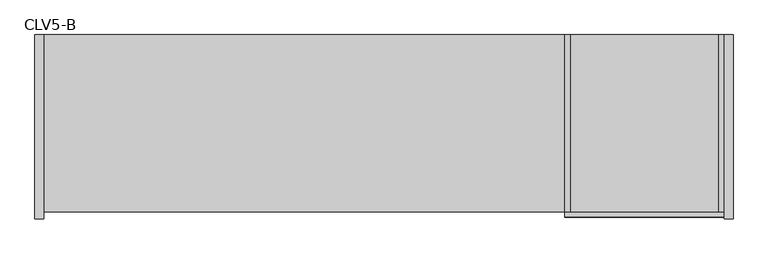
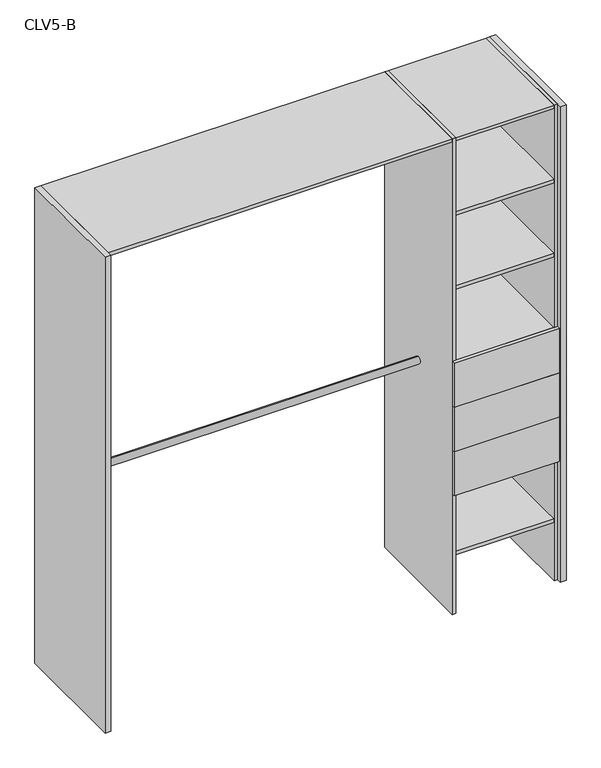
"""IFC4 building model written with IfcOpenShell, lengths in millimetres: furniture geometry, Closet 1estantes-1tubos_2 laterales : CLV5-B."""

from ifc_helpers import new_model, si_unit, point, frame, frame_2d, origin, origin_with_axes, place, context, project, spatial, polyline, circle_curve, trimmed, segment, composite_curve, outline, extrude, source, transform, mapped, element, save


def clv5_b_48a4a83d(model_context):
    return source(origin(), model_context, "Body", "SweptSolid", [
        extrude(outline(polyline([(-1695.1276798, 80.0), (-1720.1276798, 80.0), (-1720.1276798, 600.0), (-1695.1276798, 600.0), (-1695.1276798, 80.0)])), origin_with_axes(), (0.0, 0.0, 1.0), 2150.0),
        extrude(outline(polyline([(250.0, 80.0), (225.0, 80.0), (225.0, 600.0), (250.0, 600.0), (250.0, 80.0)])), origin_with_axes(), (0.0, 0.0, 1.0), 2150.0),
        extrude(outline(polyline([(225.0, 100.0), (210.0, 100.0), (210.0, 600.0), (225.0, 600.0), (225.0, 100.0)])), origin_with_axes(), (0.0, 0.0, 1.0), 2150.0),
        extrude(outline(polyline([(-210.0, 100.0), (-225.0, 100.0), (-225.0, 600.0), (-210.0, 600.0), (-210.0, 100.0)])), origin_with_axes(), (0.0, 0.0, 1.0), 2150.0),
        extrude(outline(polyline([(225.0, 100.0), (225.0, 85.0), (-225.0, 85.0), (-225.0, 100.0), (225.0, 100.0)])), frame((0.0, 0.0, 945.0), z_axis=(0.0, 0.0, 1.0), x_axis=(1.0, 0.0, 0.0)), (0.0, 0.0, 1.0), 200.0),
        extrude(outline(polyline([(225.0, 100.0), (225.0, 85.0), (-225.0, 85.0), (-225.0, 100.0), (225.0, 100.0)])), frame((0.0, 0.0, 745.0), z_axis=(0.0, 0.0, 1.0), x_axis=(1.0, 0.0, 0.0)), (0.0, 0.0, 1.0), 200.0),
        extrude(outline(polyline([(225.0, 100.0), (225.0, 85.0), (-225.0, 85.0), (-225.0, 100.0), (225.0, 100.0)])), frame((0.0, 0.0, 545.0), z_axis=(0.0, 0.0, 1.0), x_axis=(1.0, 0.0, 0.0)), (0.0, 0.0, 1.0), 200.0),
        extrude(outline(polyline([(210.0, 100.0), (-210.0, 100.0), (-210.0, 600.0), (210.0, 600.0), (210.0, 100.0)])), frame((0.0, 0.0, 1130.0), z_axis=(0.0, 0.0, 1.0), x_axis=(1.0, 0.0, 0.0)), (0.0, 0.0, 1.0), 15.0),
        extrude(outline(composite_curve([segment(trimmed(circle_curve(frame_2d((350.0, 1000.0)), 15.0), [point((350.0, 1015.0))], [point((350.0, 985.0))], False, "CARTESIAN"), True, "CONTINUOUS"), segment(trimmed(circle_curve(frame_2d((350.0, 1000.0)), 15.0), [point((350.0, 985.0))], [point((350.0, 1015.0))], False, "CARTESIAN"), True, "CONTINUOUS")], self_intersect=False)), frame((-1695.1276798, 0.0, 0.0), z_axis=(1.0, 0.0, 0.0), x_axis=(0.0, 1.0, 0.0)), (0.0, 0.0, 1.0), 1470.1276798),
        extrude(outline(composite_curve([segment(trimmed(circle_curve(frame_2d((350.0, 2000.0)), 15.0), [point((350.0, 2015.0))], [point((350.0, 1985.0))], False, "CARTESIAN"), True, "CONTINUOUS"), segment(trimmed(circle_curve(frame_2d((350.0, 2000.0)), 15.0), [point((350.0, 1985.0))], [point((350.0, 2015.0))], False, "CARTESIAN"), True, "CONTINUOUS")], self_intersect=False)), frame((-1695.1276798, 0.0, 0.0), z_axis=(1.0, 0.0, 0.0), x_axis=(0.0, 1.0, 0.0)), (0.0, 0.0, 1.0), 1470.1276798),
        extrude(outline(polyline([(210.0, 100.0), (-210.0, 100.0), (-210.0, 600.0), (210.0, 600.0), (210.0, 100.0)])), frame((0.0, 0.0, 265.0), z_axis=(0.0, 0.0, 1.0), x_axis=(1.0, 0.0, 0.0)), (0.0, 0.0, 1.0), 15.0),
        extrude(outline(polyline([(210.0, 100.0), (-210.0, 100.0), (-210.0, 600.0), (210.0, 600.0), (210.0, 100.0)])), frame((0.0, 0.0, 545.0), z_axis=(0.0, 0.0, 1.0), x_axis=(1.0, 0.0, 0.0)), (0.0, 0.0, 1.0), 15.0),
        extrude(outline(polyline([(210.0, 100.0), (-210.0, 100.0), (-210.0, 600.0), (210.0, 600.0), (210.0, 100.0)])), frame((0.0, 0.0, 1465.0), z_axis=(0.0, 0.0, 1.0), x_axis=(1.0, 0.0, 0.0)), (0.0, 0.0, 1.0), 15.0),
        extrude(outline(polyline([(210.0, 100.0), (-210.0, 100.0), (-210.0, 600.0), (210.0, 600.0), (210.0, 100.0)])), frame((0.0, 0.0, 1800.0), z_axis=(0.0, 0.0, 1.0), x_axis=(1.0, 0.0, 0.0)), (0.0, 0.0, 1.0), 15.0),
        extrude(outline(polyline([(-210.0, 100.0), (-1695.1276798, 100.0), (-1695.1276798, 600.0), (-210.0, 600.0), (-210.0, 100.0)])), frame((0.0, 0.0, 2135.0), z_axis=(0.0, 0.0, 1.0), x_axis=(1.0, 0.0, 0.0)), (0.0, 0.0, 1.0), 15.0),
        extrude(outline(polyline([(210.0, 100.0), (-210.0, 100.0), (-210.0, 600.0), (210.0, 600.0), (210.0, 100.0)])), frame((0.0, 0.0, 2135.0), z_axis=(0.0, 0.0, 1.0), x_axis=(1.0, 0.0, 0.0)), (0.0, 0.0, 1.0), 15.0),
    ])


if __name__ == "__main__":
    model = new_model("IFC4")
    model_context = context("Model", 3, world=origin())
    ifc_project = project(units=[si_unit("LENGTHUNIT", "METRE", prefix="MILLI")], contexts=[model_context])
    site = spatial("IfcSite", under=ifc_project)
    building = spatial("IfcBuilding", under=site)
    placement = place(None, origin())
    clv5_b_shape = clv5_b_48a4a83d(model_context)
    element("IfcFurniture", 1, ObjectType="Closet 1estantes-1tubos_2 laterales : CLV5-B", at=placement, inside=building, context=model_context, shape_type="MappedRepresentation", body=[
        mapped(clv5_b_shape, transform((0.0, 0.0, 0.0), x_axis=(1.0, 0.0, 0.0), y_axis=(0.0, 1.0, 0.0), z_axis=(0.0, 0.0, 1.0))),
    ])
    save(model, "model.ifc")
